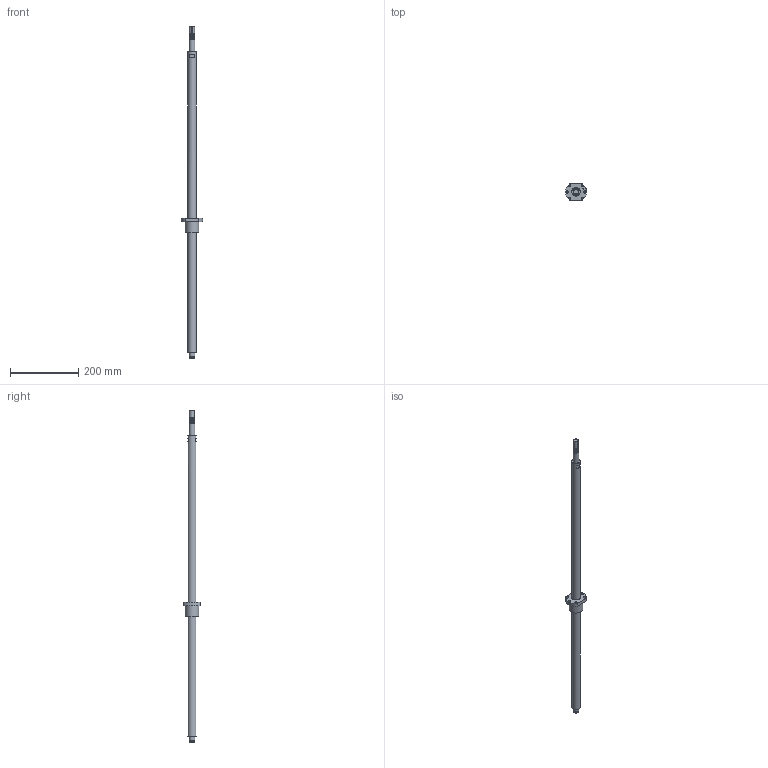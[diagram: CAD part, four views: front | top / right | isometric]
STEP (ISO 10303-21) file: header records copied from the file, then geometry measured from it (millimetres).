
FILE_DESCRIPTION(/* description */ (''),/* implementation_level */ '2;1');
FILE_NAME(/* name */ 'BSG282_asm1.stp',/* time_stamp */ '2017-01-12T10:12:47+08:00',/* author */ (''),/* organization */ (''),/* preprocessor_version */ 'ST-DEVELOPER v15',/* originating_system */ 'SIEMENS PLM Software NX 8.5',/* authorisation */ '');
FILE_SCHEMA (('AUTOMOTIVE_DESIGN { 1 0 10303 214 3 1 1 1 }'));
Length unit declared in the file: millimetre
Products named in the file (3): 01; BSG282; BSG282_asm1
Assembly tree (2 placements, depth 2):
  BSG282_asm1
    BSG282
    01
Bounding box: 61.8 x 48 x 975 mm (x, y, z)
Volume: 43546.8 mm3; surface area: 90444.2 mm2
Topology: 1 solids, 2 shells, 64 faces, 163 edges, 111 vertices
Faces by surface type: cylinder 36, plane 24, bspline 2, cone 2
Full cylindrical faces by diameter (mm): 5 x1, 6 x1, 6.6 x6, 15 x1, 16.2 x1, 17 x19, 25 x2, 40 x1
Entity records: 4684 total; most frequent: CARTESIAN_POINT 3601, DIRECTION 212, ORIENTED_EDGE 170, AXIS2_PLACEMENT_3D 92, EDGE_LOOP 90, EDGE_CURVE 85, FACE_BOUND 69, VERTEX_POINT 67
